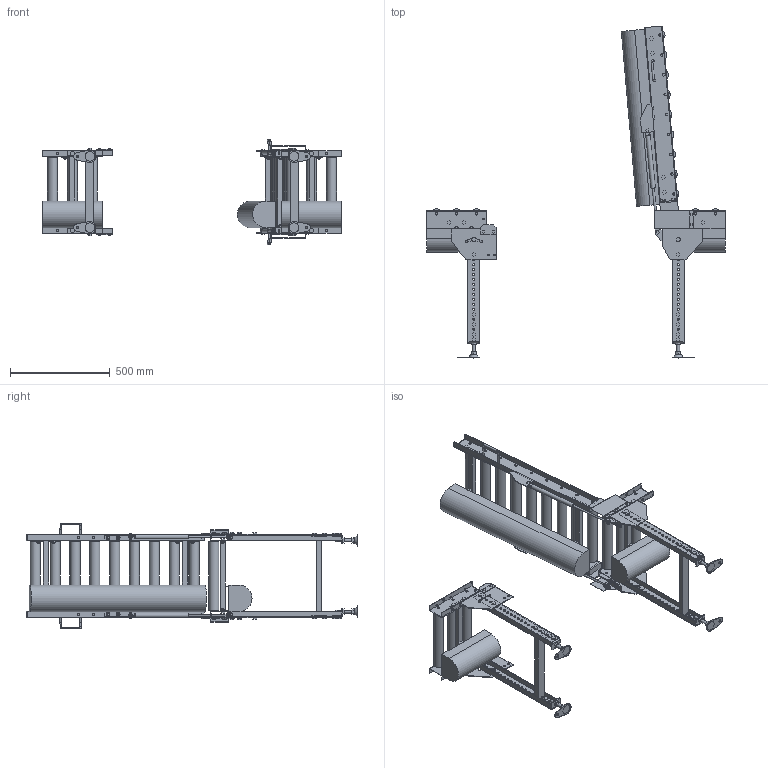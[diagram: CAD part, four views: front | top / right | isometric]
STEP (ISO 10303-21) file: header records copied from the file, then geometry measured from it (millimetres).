
FILE_DESCRIPTION( (''), '2;1');
FILE_NAME ('WEB-MCD50-355-100-90-R-HU.stp','2025-07-01T16:00:26',(''),(''),'spGate 20.6.2 (****-****-****-****)','','');
FILE_SCHEMA (('AUTOMOTIVE_DESIGN'));
Length unit declared in the file: millimetre
Products named in the file (21): WEB-MCD50-355-100-90-R-HU; TEMP_X_T-prt0; TEMP_X_T-prt1; TEMP_X_T-prt2; TEMP_X_T-prt3; TEMP_X_T-prt4; TEMP_X_T-prt5; TEMP_X_T-prt6; TEMP_X_T-prt7; TEMP_X_T-prt8; TEMP_X_T-prt9; TEMP_X_T-prt10; TEMP_X_T-prt11; TEMP_X_T-prt12; TEMP_X_T-prt13; TEMP_X_T-prt14; TEMP_X_T-prt15; TEMP_X_T-prt16; TEMP_X_T-prt17; TEMP_X_T-prt18; TEMP_X_T-prt19
Assembly tree (20 placements, depth 2):
  WEB-MCD50-355-100-90-R-HU
    TEMP_X_T-prt0
    TEMP_X_T-prt1
    TEMP_X_T-prt2
    TEMP_X_T-prt3
    TEMP_X_T-prt4
    TEMP_X_T-prt5
    TEMP_X_T-prt6
    TEMP_X_T-prt7
    TEMP_X_T-prt8
    TEMP_X_T-prt9
    TEMP_X_T-prt10
    TEMP_X_T-prt11
    TEMP_X_T-prt12
    TEMP_X_T-prt13
    TEMP_X_T-prt14
    TEMP_X_T-prt15
    TEMP_X_T-prt16
    TEMP_X_T-prt17
    TEMP_X_T-prt18
    TEMP_X_T-prt19
Bounding box: 1500 x 1665.85 x 531.39 mm (x, y, z)
Volume: 36410324.1 mm3; surface area: 3903240.9 mm2
Topology: 20 solids, 46 shells, 2549 faces, 6461 edges, 4251 vertices
Faces by surface type: plane 2105, cylinder 426, bspline 18
Full cylindrical faces by diameter (mm): 8 x8, 8.5 x8, 9 x20, 10 x58, 10.5 x96, 11 x8, 12 x32, 13 x12, 14 x4, 15 x6, 15.4 x2, 15.7 x2, 16 x10, 17 x4, 18 x6, 18.4 x28, 18.5 x8, 21 x12, 22 x2, 50.8 x15
Entity records: 130728 total; most frequent: CARTESIAN_POINT 14754, DIRECTION 13028, ORIENTED_EDGE 12922, COLOUR_RGB 9030, PRESENTATION_STYLE_ASSIGNMENT 9030, STYLED_ITEM 9030, EDGE_CURVE 6461, DRAUGHTING_PRE_DEFINED_CURVE_FONT 6461
